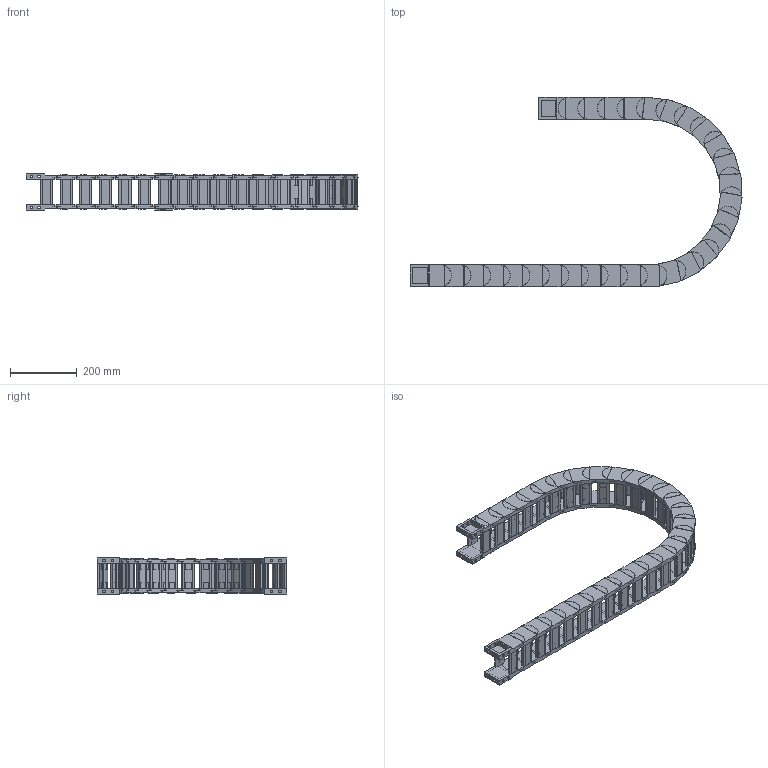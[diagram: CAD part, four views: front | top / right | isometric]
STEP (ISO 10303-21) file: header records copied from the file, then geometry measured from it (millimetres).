
FILE_DESCRIPTION((''),'2;1');
FILE_NAME('HD45-R250-ZPT_ASM','2022-06-20T19:47:44',('admin'),(''),'CREO PARAMETRIC BY PTC INC, 2021164','CREO PARAMETRIC BY PTC INC, 2021164','');
FILE_SCHEMA(('CONFIG_CONTROL_DESIGN','GEOMETRIC_VALIDATION_PROPERTIES_MIM'));
Length unit declared in the file: millimetre
Products named in the file (6): HD45-585; 45-500001; HD45_ASM; H45-T1-G; H45-T2-G; HD45-R250-ZPT_ASM
Assembly tree (34 placements, depth 3):
  HD45-R250-ZPT_ASM
    HD45_ASM  x28
      HD45-585
      45-500001
    H45-T1-G
    H45-T2-G
    45-500001  x2
Bounding box: 991.73 x 564.73 x 108.1 mm (x, y, z)
Volume: 4628602.8 mm3; surface area: 1611404 mm2
Topology: 120 solids, 120 shells, 2322 faces, 6218 edges, 4260 vertices
Faces by surface type: plane 1526, cylinder 796
Entity records: 8726 total; most frequent: CARTESIAN_POINT 1408, DIRECTION 1398, ORIENTED_EDGE 1276, EDGE_CURVE 638, AXIS2_PLACEMENT_3D 488, VERTEX_POINT 432, VECTOR 422, LINE 422
